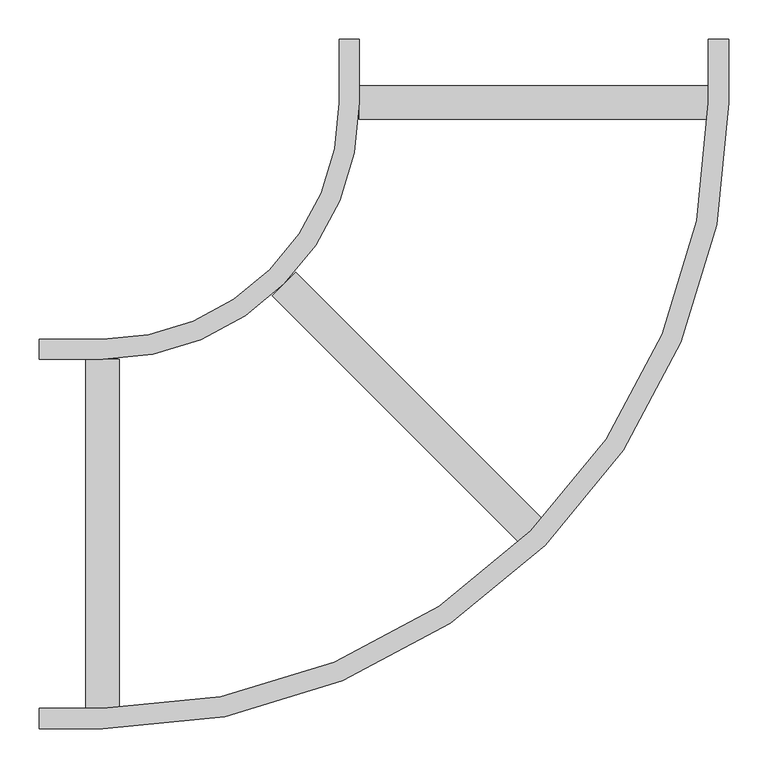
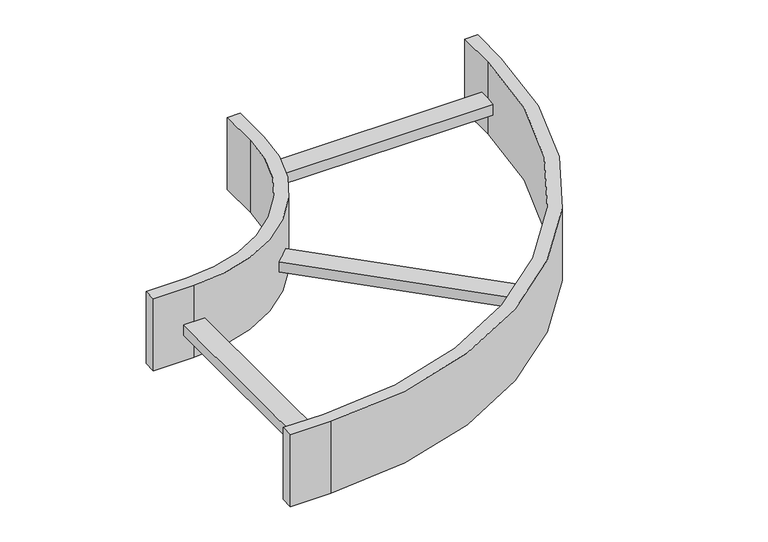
"""IFC4 building model written with IfcOpenShell, lengths in millimetres: cable carrier fitting geometry, Legrand_CableLadder_Swifts_Emerald_FlatBend-13 : Hot Dip Galvanised (after manufacture)."""

import ifcopenshell
import ifcopenshell.guid

model = None  # the IFC model being written
_history = None  # IfcOwnerHistory: only IFC2X3 demands one
_inside = {}  # id of a spatial element -> (the spatial element, [elements in it])
_under = {}  # id of a project, library or spatial element -> (it, [spatial elements below it])
_declared = {}  # id of a project -> (the project, [libraries it declares])
_typed = {}  # id of a type object -> (the type object, [elements of that type])
_made_of = {}  # id of a material, layer set ... -> (it, [elements and type objects made of it])


def new_model(schema):
    """Start an empty IFC model of exactly this schema.

    Asked for "IFC4X3", IfcOpenShell would pick the latest addendum, in which some entities
    have other attributes; the version numbers below select the first issue.
    IFC2X3 requires an IfcOwnerHistory on every rooted entity: one is made here for all.
    """
    global model, _history
    if schema == "IFC4X3":
        model = ifcopenshell.file(schema_version=(4, 3, 0, 0))
    else:
        model = ifcopenshell.file(schema=schema)
    _inside.clear()
    _under.clear()
    _declared.clear()
    _typed.clear()
    _made_of.clear()
    _history = None
    if model.schema == "IFC2X3":
        org = make("IfcOrganization", Name="unknown")
        user = make(
            "IfcPersonAndOrganization",
            ThePerson=make("IfcPerson", FamilyName="unknown"),
            TheOrganization=org,
        )
        app = make(
            "IfcApplication",
            ApplicationDeveloper=org,
            Version="unknown",
            ApplicationFullName="unknown",
            ApplicationIdentifier="unknown",
        )
        _history = make(
            "IfcOwnerHistory",
            OwningUser=user,
            OwningApplication=app,
            ChangeAction="ADDED",
            CreationDate=0,
        )
    return model


def make(cls, **values):
    """One entity of the class cls with the attributes given. An attribute that is None is left unset."""
    return model.create_entity(
        cls, **{name: value for name, value in values.items() if value is not None}
    )


def rooted(cls, **values):
    """An entity with a GlobalId (a new one), such as an element, a storey or a relation."""
    return make(cls, GlobalId=ifcopenshell.guid.new(), OwnerHistory=_history, **values)


def si_unit(unit_type, name, prefix=None):
    """IfcSIUnit, for example si_unit("LENGTHUNIT", "METRE", prefix="MILLI")."""
    return make("IfcSIUnit", UnitType=unit_type, Prefix=prefix, Name=name)


def assignment(units):
    """IfcUnitAssignment: the units of a project."""
    return None if units is None else make("IfcUnitAssignment", Units=units)


def point(xyz):
    """IfcCartesianPoint."""
    return None if xyz is None else make("IfcCartesianPoint", Coordinates=xyz)


def direction(xyz):
    """IfcDirection."""
    return None if xyz is None else make("IfcDirection", DirectionRatios=xyz)


def frame(location, z_axis=None, x_axis=None):
    """IfcAxis2Placement3D, a coordinate frame: its origin and axes. An axis left out is left unset."""
    return make(
        "IfcAxis2Placement3D",
        Location=point(location),
        Axis=direction(z_axis),
        RefDirection=direction(x_axis),
    )


def frame_2d(location, x_axis=None):
    """IfcAxis2Placement2D, a coordinate frame in the plane: its origin and x axis."""
    return make(
        "IfcAxis2Placement2D", Location=point(location), RefDirection=direction(x_axis)
    )


def origin():
    """The frame at (0, 0, 0) with its axes left unset."""
    return frame((0.0, 0.0, 0.0))


def place(relative_to, where):
    """IfcLocalPlacement: puts the frame where relative to a parent placement (None: the world)."""
    return make(
        "IfcLocalPlacement", PlacementRelTo=relative_to, RelativePlacement=where
    )


def context(
    kind, dimensions, precision=None, world=None, true_north=None, identifier=None
):
    """IfcGeometricRepresentationContext, for example the 3D "Model" context."""
    return make(
        "IfcGeometricRepresentationContext",
        ContextIdentifier=identifier,
        ContextType=kind,
        CoordinateSpaceDimension=dimensions,
        Precision=precision,
        WorldCoordinateSystem=world,
        TrueNorth=true_north,
    )


def project(units=None, contexts=None):
    """IfcProject with its units and contexts."""
    return rooted(
        "IfcProject",
        Name="project",
        RepresentationContexts=contexts,
        UnitsInContext=assignment(units),
    )


def spatial(cls, under=None, at=None, **own):
    """A site, building, storey or space (cls), placed at a placement, below another one or the project."""
    s = rooted(cls, ObjectPlacement=at, **own)
    if under is not None:
        _under.setdefault(under.id(), (under, []))[1].append(s)
    return s


def polyline(points):
    """IfcPolyline through the points."""
    return make("IfcPolyline", Points=[point(p) for p in points])


def circle_curve(where, radius):
    """IfcCircle in the frame where."""
    return make("IfcCircle", Position=where, Radius=radius)


def trimmed(basis, trim1, trim2, sense, master):
    """IfcTrimmedCurve: the piece of a basis curve between two trims."""
    return make(
        "IfcTrimmedCurve",
        BasisCurve=basis,
        Trim1=trim1,
        Trim2=trim2,
        SenseAgreement=sense,
        MasterRepresentation=master,
    )


def segment(curve, same_sense, transition):
    """IfcCompositeCurveSegment."""
    return make(
        "IfcCompositeCurveSegment",
        Transition=transition,
        SameSense=same_sense,
        ParentCurve=curve,
    )


def composite_curve(segments, self_intersect=None):
    """IfcCompositeCurve: segments joined end to end."""
    return make("IfcCompositeCurve", Segments=segments, SelfIntersect=self_intersect)


def outline(outer, holes=None, kind="AREA"):
    """IfcArbitraryClosedProfileDef: a profile drawn as a closed curve; with holes, ...WithVoids."""
    if holes is None:
        return make("IfcArbitraryClosedProfileDef", ProfileType=kind, OuterCurve=outer)
    return make(
        "IfcArbitraryProfileDefWithVoids",
        ProfileType=kind,
        OuterCurve=outer,
        InnerCurves=holes,
    )


def extrude(swept, where, along, depth):
    """IfcExtrudedAreaSolid: the profile swept, set in the frame where, extruded along a direction by depth."""
    return make(
        "IfcExtrudedAreaSolid",
        SweptArea=swept,
        Position=where,
        ExtrudedDirection=direction(along),
        Depth=depth,
    )


def shape(context_of_items, identifier, shape_type, items):
    """IfcShapeRepresentation: the items that make up one representation, for example the "Body"."""
    return make(
        "IfcShapeRepresentation",
        ContextOfItems=context_of_items,
        RepresentationIdentifier=identifier,
        RepresentationType=shape_type,
        Items=items,
    )


def source(mapping_origin, context_of_items, identifier, shape_type, items):
    """IfcRepresentationMap: a shape defined once, which mapped items show again and again."""
    return make(
        "IfcRepresentationMap",
        MappingOrigin=mapping_origin,
        MappedRepresentation=shape(context_of_items, identifier, shape_type, items),
    )


def transform(
    local_origin,
    x_axis=None,
    y_axis=None,
    z_axis=None,
    scale=None,
    scale2=None,
    scale3=None,
    uniform=True,
):
    """IfcCartesianTransformationOperator3D, or its non-uniform kind. x_axis, y_axis, z_axis: its Axis1, 2, 3."""
    if uniform:
        return make(
            "IfcCartesianTransformationOperator3D",
            Axis1=direction(x_axis),
            Axis2=direction(y_axis),
            LocalOrigin=point(local_origin),
            Scale=scale,
            Axis3=direction(z_axis),
        )
    return make(
        "IfcCartesianTransformationOperator3DnonUniform",
        Axis1=direction(x_axis),
        Axis2=direction(y_axis),
        LocalOrigin=point(local_origin),
        Scale=scale,
        Axis3=direction(z_axis),
        Scale2=scale2,
        Scale3=scale3,
    )


def mapped(mapping_source, mapping_target):
    """IfcMappedItem: shows the shape of a source again, moved by a transform."""
    return make(
        "IfcMappedItem", MappingSource=mapping_source, MappingTarget=mapping_target
    )


def made_of(thing, what):
    """Note that an element or type object is made of a material, layer set ...; save() writes the relation."""
    if what is not None:
        _made_of.setdefault(what.id(), (what, []))[1].append(thing)
    return thing


def element(
    cls,
    number,
    at=None,
    inside=None,
    cuts=None,
    type_object=None,
    material=None,
    context=None,
    identifier="Body",
    shape_type=None,
    held_by="IfcProductDefinitionShape",
    body=None,
    shapes=None,
    **own,
):
    """One element of the class cls, such as IfcWall. Its Tag is "e" and its number.

    at: its placement. inside: the storey or other place that contains it. cuts: it is an
    opening in that element (IfcRelVoidsElement). A single representation is given by context,
    identifier, shape_type and body (its items); several are given by shapes. held_by: the class
    of the entity that holds the representations. save() writes the other relations.
    """
    e = rooted(cls, Tag="e%d" % number, ObjectPlacement=at, **own)
    if body is not None:
        shapes = [shape(context, identifier, shape_type, body)]
    if shapes is not None:
        e.Representation = make(held_by, Representations=shapes)
    if inside is not None:
        _inside.setdefault(inside.id(), (inside, []))[1].append(e)
    if cuts is not None:
        rooted(
            "IfcRelVoidsElement", RelatingBuildingElement=cuts, RelatedOpeningElement=e
        )
    if type_object is not None:
        _typed.setdefault(type_object.id(), (type_object, []))[1].append(e)
    return made_of(e, material)


def aggregate(whole, parts):
    """IfcRelAggregates: a whole, such as a stair, and the parts it consists of."""
    return rooted("IfcRelAggregates", RelatingObject=whole, RelatedObjects=parts)


def save(model, path):
    """Write the relations noted so far, then the file.

    IfcRelAggregates (storeys below a building ...), IfcRelContainedInSpatialStructure (elements
    in a storey), IfcRelDefinesByType, IfcRelAssociatesMaterial and IfcRelDeclares: one each for
    every whole, place, type object, material and project.
    """
    for whole, parts in _under.values():
        aggregate(whole, parts)
    for where, things in _inside.values():
        rooted(
            "IfcRelContainedInSpatialStructure",
            RelatedElements=things,
            RelatingStructure=where,
        )
    for kind, things in _typed.values():
        rooted("IfcRelDefinesByType", RelatedObjects=things, RelatingType=kind)
    for what, things in _made_of.values():
        rooted("IfcRelAssociatesMaterial", RelatedObjects=things, RelatingMaterial=what)
    for by, libraries in _declared.values():
        rooted("IfcRelDeclares", RelatingContext=by, RelatedDefinitions=libraries)
    model.write(path)


def cable_carrier_fitting_0715c1ba(model_context):
    return source(origin(), model_context, "Body", "SweptSolid", [
        extrude(outline(polyline([(-18.4376811, -11.2608037), (-331.6859851, 301.9875003), (-301.9875003, 331.6859851), (11.2608037, 18.4376811), (-18.4376811, -11.2608037)])), frame((0.0, 0.0, -21.0), z_axis=(0.0, 0.0, 1.0), x_axis=(1.0, 0.0, 0.0)), (0.0, 0.0, 1.0), 21.0),
        extrude(outline(polyline([(-568.0, -221.5), (-568.0, 221.5), (-526.0, 221.5), (-526.0, -221.5), (-568.0, -221.5)])), frame((0.0, 0.0, -21.0), z_axis=(0.0, 0.0, 1.0), x_axis=(1.0, 0.0, 0.0)), (0.0, 0.0, 1.0), 21.0),
        extrude(outline(polyline([(221.5, 526.0), (-221.5, 526.0), (-221.5, 568.0), (221.5, 568.0), (221.5, 526.0)])), frame((0.0, 0.0, -21.0), z_axis=(0.0, 0.0, 1.0), x_axis=(1.0, 0.0, 0.0)), (0.0, 0.0, 1.0), 21.0),
        extrude(outline(composite_curve([segment(polyline([(-627.0, -247.0), (-627.0, -221.5), (-547.0, -221.5)]), True, "CONTINUOUS"), segment(trimmed(circle_curve(frame_2d((-547.0, 547.0)), 768.5), [point((-547.0, -221.5))], [point((221.5, 547.0))], True, "CARTESIAN"), True, "CONTINUOUS"), segment(polyline([(221.5, 547.0), (221.5, 627.0), (247.0, 627.0), (247.0, 547.0)]), True, "CONTINUOUS"), segment(trimmed(circle_curve(frame_2d((-547.0, 547.0)), 794.0), [point((247.0, 547.0))], [point((-547.0, -247.0))], False, "CARTESIAN"), True, "CONTINUOUS"), segment(polyline([(-547.0, -247.0), (-627.0, -247.0)]), True, "CONTINUOUS")], self_intersect=False)), frame((0.0, 0.0, -75.0), z_axis=(0.0, 0.0, 1.0), x_axis=(1.0, 0.0, 0.0)), (0.0, 0.0, 1.0), 150.0),
        extrude(outline(composite_curve([segment(polyline([(-627.0, 221.5), (-627.0, 247.0), (-547.0, 247.0)]), True, "CONTINUOUS"), segment(trimmed(circle_curve(frame_2d((-547.0, 547.0)), 300.0), [point((-547.0, 247.0))], [point((-247.0, 547.0))], True, "CARTESIAN"), True, "CONTINUOUS"), segment(polyline([(-247.0, 547.0), (-247.0, 627.0), (-221.5, 627.0), (-221.5, 547.0)]), True, "CONTINUOUS"), segment(trimmed(circle_curve(frame_2d((-547.0, 547.0)), 325.5), [point((-221.5, 547.0))], [point((-547.0, 221.5))], False, "CARTESIAN"), True, "CONTINUOUS"), segment(polyline([(-547.0, 221.5), (-627.0, 221.5)]), True, "CONTINUOUS")], self_intersect=False)), frame((0.0, 0.0, -75.0), z_axis=(0.0, 0.0, 1.0), x_axis=(1.0, 0.0, 0.0)), (0.0, 0.0, 1.0), 150.0),
    ])


if __name__ == "__main__":
    model = new_model("IFC4")
    model_context = context("Model", 3, world=origin())
    ifc_project = project(units=[si_unit("LENGTHUNIT", "METRE", prefix="MILLI")], contexts=[model_context])
    site = spatial("IfcSite", under=ifc_project)
    building = spatial("IfcBuilding", under=site)
    placement = place(None, origin())
    cable_carrier_fitting_shape = cable_carrier_fitting_0715c1ba(model_context)
    element("IfcCableCarrierFitting", 1, ObjectType="Legrand_CableLadder_Swifts_Emerald_FlatBend-13 : Hot Dip Galvanised (after manufacture)", at=placement, inside=building, context=model_context, shape_type="MappedRepresentation", body=[
        mapped(cable_carrier_fitting_shape, transform((0.0, 0.0, 0.0), x_axis=(1.0, 0.0, 0.0), y_axis=(0.0, 1.0, 0.0), z_axis=(0.0, 0.0, 1.0))),
    ])
    save(model, "model.ifc")
